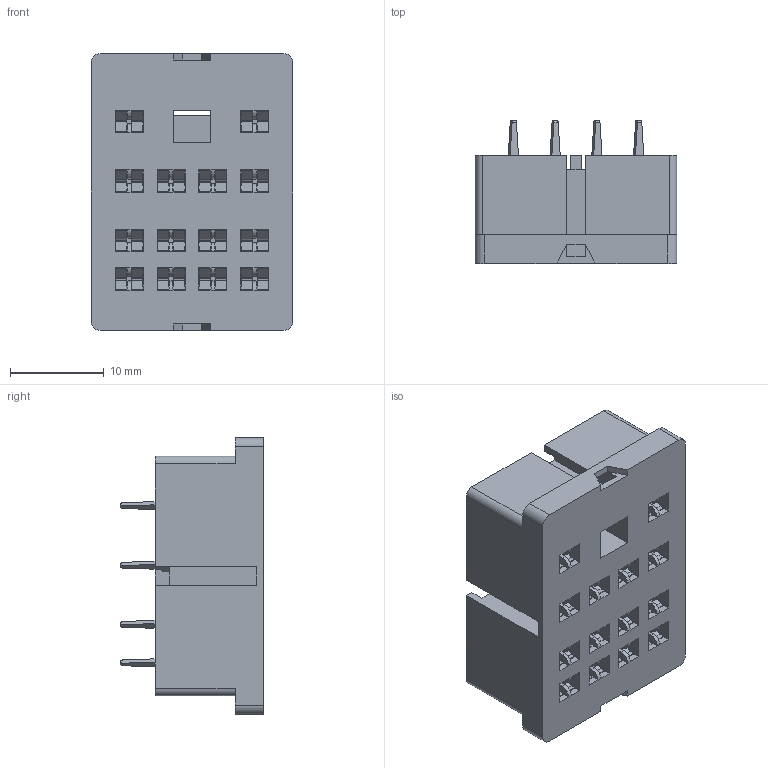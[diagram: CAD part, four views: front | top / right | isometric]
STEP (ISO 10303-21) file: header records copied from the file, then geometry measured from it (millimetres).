
FILE_DESCRIPTION(/* description */ (''),/* implementation_level */ '2;1');
FILE_NAME(/* name */ 'C:\Desktop\assieme 94.14._TOP.stp',/* time_stamp */ '2016-03-02T12:01:59+01:00',/* author */ ('marco'),/* organization */ (''),/* preprocessor_version */ 'ST-DEVELOPER v16.1',/* originating_system */ 'Autodesk Inventor 2016',/* authorisation */ '');
FILE_SCHEMA (('AUTOMOTIVE_DESIGN { 1 0 10303 214 3 1 1 }'));
Length unit declared in the file: centimetre
Products named in the file (1): assieme 94.14._TOP
Bounding box: 21.5 x 15.2 x 29.5 mm (x, y, z)
Volume: 5024.5 mm3; surface area: 6185.3 mm2
Topology: 1 solids, 1 shells, 1392 faces, 4374 edges, 2840 vertices
Faces by surface type: plane 1118, cylinder 274
Entity records: 48521 total; most frequent: ORIENTED_EDGE 8748, CARTESIAN_POINT 8607, DIRECTION 7708, EDGE_CURVE 4374, LINE 3826, VECTOR 3826, VERTEX_POINT 2840, AXIS2_PLACEMENT_3D 1941
